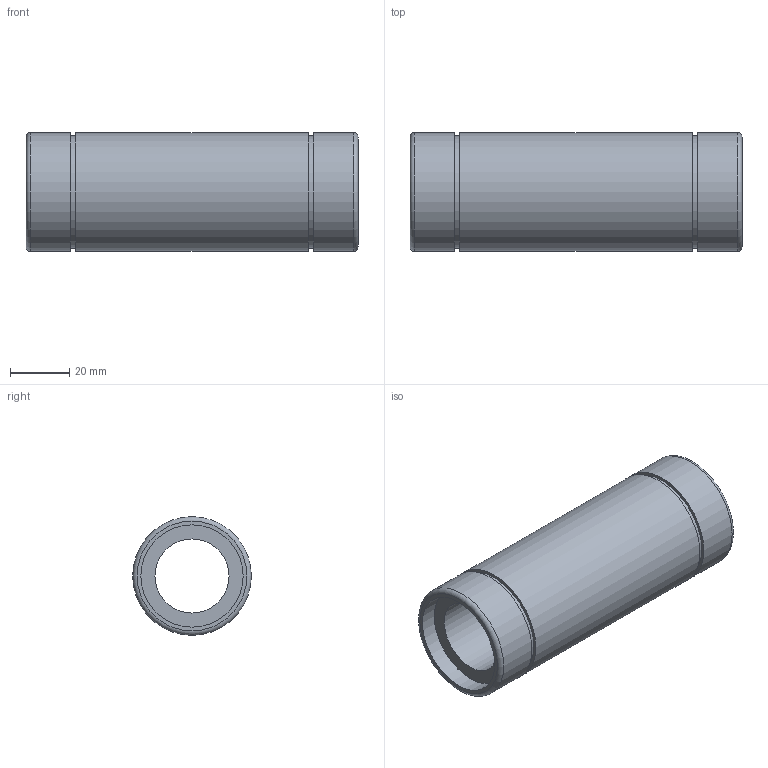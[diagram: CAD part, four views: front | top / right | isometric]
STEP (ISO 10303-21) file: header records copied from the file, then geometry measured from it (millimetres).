
FILE_DESCRIPTION( ( 'Unknown' ), '1' );
FILE_NAME( 'D:/累诀/己绕皋墨飘肺葱胶/11-04-06_档搁累己/01_府聪绢何教/LM L/LM 25L.stp', 'Unknown', ( 'Unknown' ), ( 'Unknown' ), 'PSStep 11.0', 'Unknown', ' ' );
FILE_SCHEMA( ( 'AUTOMOTIVE_DESIGN { 1 0 10303 214 1 1 1 1 }' ) );
Length unit declared in the file: millimetre
Products named in the file (1): 1
Bounding box: 112 x 40 x 40 mm (x, y, z)
Volume: 80220.6 mm3; surface area: 25039.6 mm2
Topology: 1 solids, 1 shells, 18 faces, 30 edges, 20 vertices
Faces by surface type: plane 8, cylinder 8, torus 2
Full cylindrical faces by diameter (mm): 25 x1, 34.5 x2, 38 x2, 40 x3
Entity records: 528 total; most frequent: DIRECTION 74, CARTESIAN_POINT 55, AXIS2_PLACEMENT_3D 37, EDGE_LOOP 36, ORIENTED_EDGE 36, FACE_OUTER_BOUND 28, STYLED_ITEM 18, PRESENTATION_STYLE_ASSIGNMENT 18
